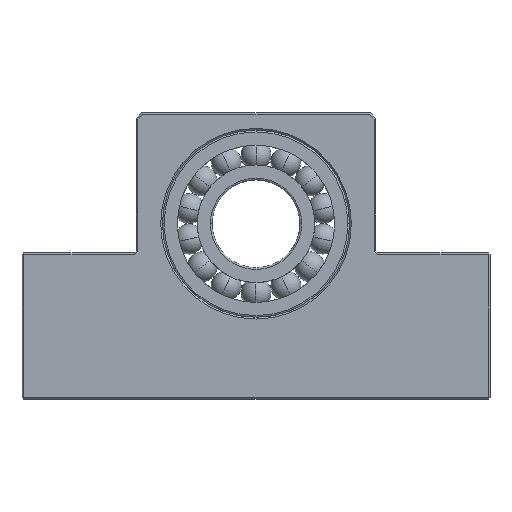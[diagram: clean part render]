
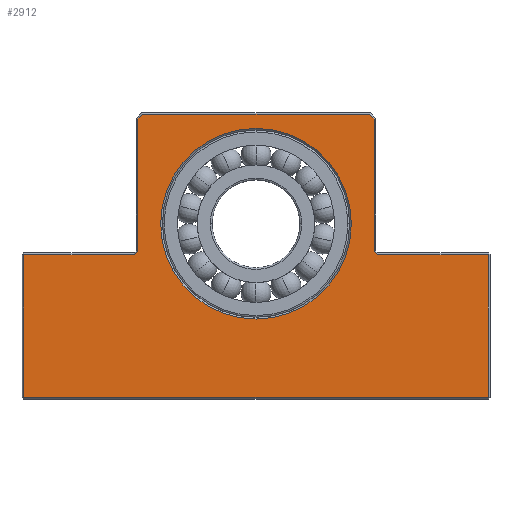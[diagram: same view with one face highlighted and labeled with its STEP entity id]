
A CAD part, top view. The second image highlights one B-rep face of the part: STEP entity #2912.
In plain terms, the highlighted planar face has unit normal (0, 0, 1).
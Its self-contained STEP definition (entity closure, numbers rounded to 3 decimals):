
#36 = ORIENTED_EDGE ( 'NONE', *, *, #2476, .T. ) ;
#42 = DIRECTION ( 'NONE',  ( 0., -1., 0. ) ) ;
#72 = PLANE ( 'NONE',  #3728 ) ;
#127 = DIRECTION ( 'NONE',  ( 0., 0., -1. ) ) ;
#216 = DIRECTION ( 'NONE',  ( 0., -1., 0. ) ) ;
#303 = ORIENTED_EDGE ( 'NONE', *, *, #2253, .T. ) ;
#305 = VERTEX_POINT ( 'NONE', #4859 ) ;
#528 = VERTEX_POINT ( 'NONE', #7046 ) ;
#586 = ORIENTED_EDGE ( 'NONE', *, *, #1847, .T. ) ;
#739 = CARTESIAN_POINT ( 'NONE',  ( 0., 0.3, 10. ) ) ;
#768 = EDGE_CURVE ( 'NONE', #8213, #5052, #7763, .T. ) ;
#792 = CARTESIAN_POINT ( 'NONE',  ( -20.2, 25.3, 10. ) ) ;
#837 = CARTESIAN_POINT ( 'NONE',  ( -20.2, 47.876, 10. ) ) ;
#944 = CARTESIAN_POINT ( 'NONE',  ( -16.3, 30., 10. ) ) ;
#1020 = EDGE_CURVE ( 'NONE', #4686, #2638, #3114, .T. ) ;
#1119 = DIRECTION ( 'NONE',  ( 0.707, 0.707, 0. ) ) ;
#1136 = CARTESIAN_POINT ( 'NONE',  ( -20.8, 24.7, 10. ) ) ;
#1189 = EDGE_LOOP ( 'NONE', ( #1518, #2551 ) ) ;
#1323 = LINE ( 'NONE', #1948, #3569 ) ;
#1369 = LINE ( 'NONE', #5494, #1873 ) ;
#1450 = LINE ( 'NONE', #4921, #3869 ) ;
#1459 = CARTESIAN_POINT ( 'NONE',  ( 0., 24.7, 10. ) ) ;
#1518 = ORIENTED_EDGE ( 'NONE', *, *, #5444, .T. ) ;
#1657 = VERTEX_POINT ( 'NONE', #837 ) ;
#1837 = DIRECTION ( 'NONE',  ( -1., 0., 0. ) ) ;
#1847 = EDGE_CURVE ( 'NONE', #5337, #6468, #1323, .T. ) ;
#1873 = VECTOR ( 'NONE', #6268, 1000. ) ;
#1948 = CARTESIAN_POINT ( 'NONE',  ( -39.7, 0., 10. ) ) ;
#2176 = VECTOR ( 'NONE', #1119, 1000. ) ;
#2253 = EDGE_CURVE ( 'NONE', #528, #4101, #1450, .T. ) ;
#2302 = DIRECTION ( 'NONE',  ( 0., 1., 0. ) ) ;
#2395 = CARTESIAN_POINT ( 'NONE',  ( 0., 30., 10. ) ) ;
#2476 = EDGE_CURVE ( 'NONE', #305, #8951, #5098, .T. ) ;
#2512 = VERTEX_POINT ( 'NONE', #944 ) ;
#2523 = VECTOR ( 'NONE', #7166, 1000. ) ;
#2528 = CARTESIAN_POINT ( 'NONE',  ( 20.8, 24.7, 10. ) ) ;
#2539 = VECTOR ( 'NONE', #4520, 1000. ) ;
#2551 = ORIENTED_EDGE ( 'NONE', *, *, #8212, .T. ) ;
#2560 = ORIENTED_EDGE ( 'NONE', *, *, #2957, .T. ) ;
#2638 = VERTEX_POINT ( 'NONE', #792 ) ;
#2709 = VECTOR ( 'NONE', #2302, 1000. ) ;
#2847 = CARTESIAN_POINT ( 'NONE',  ( 0., 48.7, 10. ) ) ;
#2854 = DIRECTION ( 'NONE',  ( 1., 0., 0. ) ) ;
#2887 = LINE ( 'NONE', #5054, #2523 ) ;
#2912 = ADVANCED_FACE ( 'NONE', ( #5029, #4188 ), #72, .F. ) ;
#2957 = EDGE_CURVE ( 'NONE', #6468, #305, #6947, .T. ) ;
#3025 = CARTESIAN_POINT ( 'NONE',  ( 39.7, 0., 10. ) ) ;
#3114 = LINE ( 'NONE', #7992, #2176 ) ;
#3330 = CARTESIAN_POINT ( 'NONE',  ( 19.288, 48.788, 10. ) ) ;
#3416 = EDGE_CURVE ( 'NONE', #1657, #2638, #4252, .T. ) ;
#3569 = VECTOR ( 'NONE', #6716, 1000. ) ;
#3596 = VECTOR ( 'NONE', #42, 1000. ) ;
#3667 = DIRECTION ( 'NONE',  ( -1., 0., 0. ) ) ;
#3728 = AXIS2_PLACEMENT_3D ( 'NONE', #8535, #127, #216 ) ;
#3869 = VECTOR ( 'NONE', #4310, 1000. ) ;
#4101 = VERTEX_POINT ( 'NONE', #7527 ) ;
#4188 = FACE_OUTER_BOUND ( 'NONE', #6380, .T. ) ;
#4252 = LINE ( 'NONE', #8335, #3596 ) ;
#4310 = DIRECTION ( 'NONE',  ( 0., 1., 0. ) ) ;
#4420 = AXIS2_PLACEMENT_3D ( 'NONE', #2395, #5150, #1837 ) ;
#4426 = ORIENTED_EDGE ( 'NONE', *, *, #8740, .T. ) ;
#4520 = DIRECTION ( 'NONE',  ( -1., 0., 0. ) ) ;
#4686 = VERTEX_POINT ( 'NONE', #1136 ) ;
#4760 = ORIENTED_EDGE ( 'NONE', *, *, #7647, .T. ) ;
#4859 = CARTESIAN_POINT ( 'NONE',  ( 39.7, 0.3, 10. ) ) ;
#4921 = CARTESIAN_POINT ( 'NONE',  ( 20.2, 0., 10. ) ) ;
#4976 = DIRECTION ( 'NONE',  ( -1., 0., 0. ) ) ;
#4992 = ORIENTED_EDGE ( 'NONE', *, *, #3416, .T. ) ;
#5029 = FACE_BOUND ( 'NONE', #1189, .T. ) ;
#5052 = VERTEX_POINT ( 'NONE', #7670 ) ;
#5054 = CARTESIAN_POINT ( 'NONE',  ( 20.8, 24.7, 10. ) ) ;
#5098 = LINE ( 'NONE', #3025, #2709 ) ;
#5150 = DIRECTION ( 'NONE',  ( 0., 0., -1. ) ) ;
#5237 = AXIS2_PLACEMENT_3D ( 'NONE', #8084, #6119, #8881 ) ;
#5337 = VERTEX_POINT ( 'NONE', #7812 ) ;
#5444 = EDGE_CURVE ( 'NONE', #7782, #2512, #8329, .T. ) ;
#5448 = ORIENTED_EDGE ( 'NONE', *, *, #768, .T. ) ;
#5494 = CARTESIAN_POINT ( 'NONE',  ( -20.288, 47.788, 10. ) ) ;
#5535 = LINE ( 'NONE', #1459, #5868 ) ;
#5541 = CIRCLE ( 'NONE', #5237, 16.3 ) ;
#5551 = DIRECTION ( 'NONE',  ( -0.707, 0.707, 0. ) ) ;
#5704 = EDGE_CURVE ( 'NONE', #528, #7878, #2887, .T. ) ;
#5868 = VECTOR ( 'NONE', #4976, 1000. ) ;
#6086 = VECTOR ( 'NONE', #3667, 1000. ) ;
#6099 = ORIENTED_EDGE ( 'NONE', *, *, #8076, .T. ) ;
#6119 = DIRECTION ( 'NONE',  ( 0., 0., -1. ) ) ;
#6268 = DIRECTION ( 'NONE',  ( -0.707, -0.707, 0. ) ) ;
#6357 = EDGE_CURVE ( 'NONE', #8951, #7878, #8060, .T. ) ;
#6380 = EDGE_LOOP ( 'NONE', ( #7027, #303, #4426, #5448, #6099, #4992, #8292, #4760, #586, #2560, #36, #8506 ) ) ;
#6468 = VERTEX_POINT ( 'NONE', #8384 ) ;
#6716 = DIRECTION ( 'NONE',  ( 0., -1., 0. ) ) ;
#6901 = CARTESIAN_POINT ( 'NONE',  ( 39.7, 24.7, 10. ) ) ;
#6927 = VECTOR ( 'NONE', #5551, 1000. ) ;
#6947 = LINE ( 'NONE', #739, #8096 ) ;
#7027 = ORIENTED_EDGE ( 'NONE', *, *, #5704, .F. ) ;
#7046 = CARTESIAN_POINT ( 'NONE',  ( 20.2, 25.3, 10. ) ) ;
#7166 = DIRECTION ( 'NONE',  ( 0.707, -0.707, 0. ) ) ;
#7221 = CARTESIAN_POINT ( 'NONE',  ( 16.3, 30., 10. ) ) ;
#7356 = CARTESIAN_POINT ( 'NONE',  ( 19.376, 48.7, 10. ) ) ;
#7527 = CARTESIAN_POINT ( 'NONE',  ( 20.2, 47.876, 10. ) ) ;
#7647 = EDGE_CURVE ( 'NONE', #4686, #5337, #5535, .T. ) ;
#7670 = CARTESIAN_POINT ( 'NONE',  ( -19.376, 48.7, 10. ) ) ;
#7763 = LINE ( 'NONE', #2847, #6086 ) ;
#7782 = VERTEX_POINT ( 'NONE', #7221 ) ;
#7812 = CARTESIAN_POINT ( 'NONE',  ( -39.7, 24.7, 10. ) ) ;
#7878 = VERTEX_POINT ( 'NONE', #2528 ) ;
#7992 = CARTESIAN_POINT ( 'NONE',  ( -20.2, 25.3, 10. ) ) ;
#8060 = LINE ( 'NONE', #8643, #2539 ) ;
#8076 = EDGE_CURVE ( 'NONE', #5052, #1657, #1369, .T. ) ;
#8084 = CARTESIAN_POINT ( 'NONE',  ( 0., 30., 10. ) ) ;
#8096 = VECTOR ( 'NONE', #2854, 1000. ) ;
#8212 = EDGE_CURVE ( 'NONE', #2512, #7782, #5541, .T. ) ;
#8213 = VERTEX_POINT ( 'NONE', #7356 ) ;
#8292 = ORIENTED_EDGE ( 'NONE', *, *, #1020, .F. ) ;
#8329 = CIRCLE ( 'NONE', #4420, 16.3 ) ;
#8335 = CARTESIAN_POINT ( 'NONE',  ( -20.2, 0., 10. ) ) ;
#8384 = CARTESIAN_POINT ( 'NONE',  ( -39.7, 0.3, 10. ) ) ;
#8506 = ORIENTED_EDGE ( 'NONE', *, *, #6357, .T. ) ;
#8535 = CARTESIAN_POINT ( 'NONE',  ( 0., 0., 10. ) ) ;
#8643 = CARTESIAN_POINT ( 'NONE',  ( 0., 24.7, 10. ) ) ;
#8740 = EDGE_CURVE ( 'NONE', #4101, #8213, #8860, .T. ) ;
#8860 = LINE ( 'NONE', #3330, #6927 ) ;
#8881 = DIRECTION ( 'NONE',  ( -1., 0., 0. ) ) ;
#8951 = VERTEX_POINT ( 'NONE', #6901 ) ;
